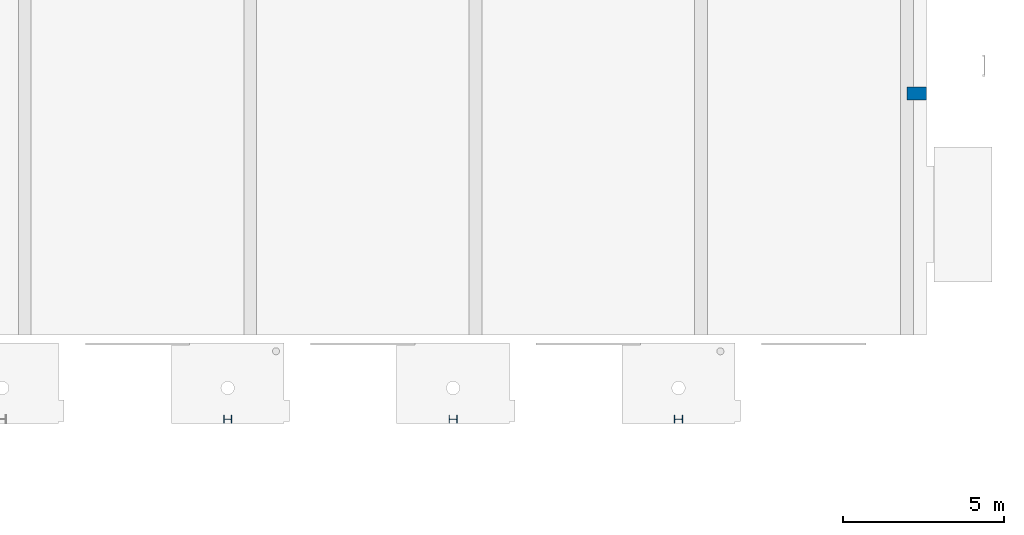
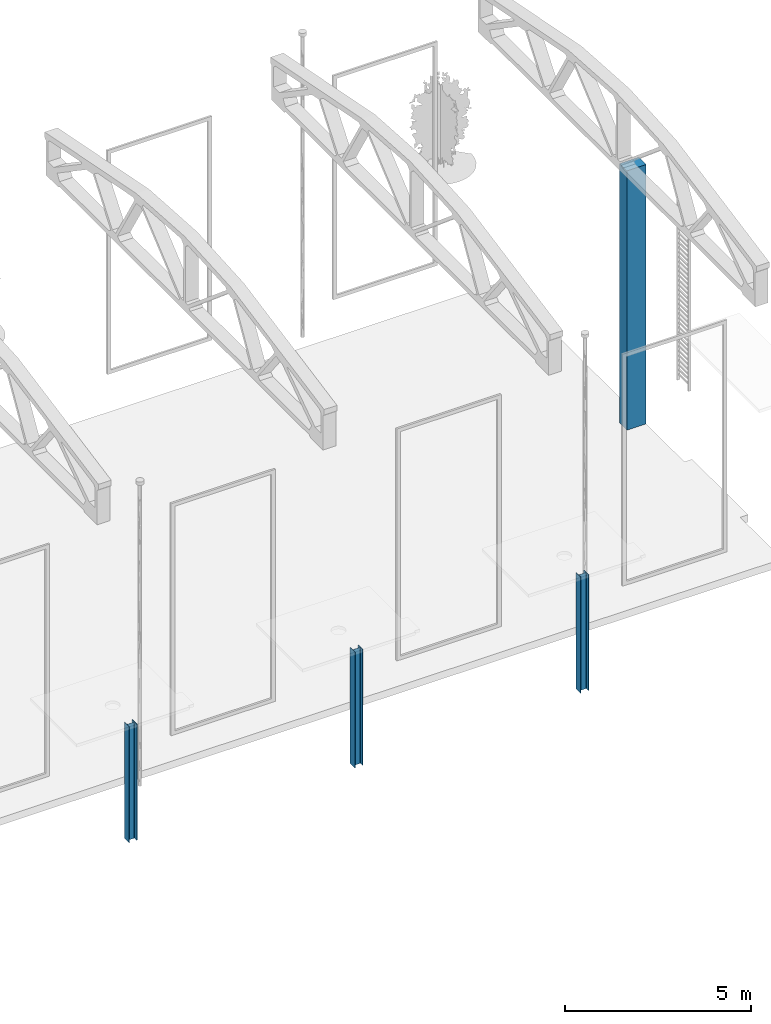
# One storey, part 2 of 14: 4 columns.
"""IFC2X3 building model written with IfcOpenShell, lengths in millimetres."""

import ifcopenshell
import ifcopenshell.guid

model = None  # the IFC model being written
_history = None  # IfcOwnerHistory: only IFC2X3 demands one
_inside = {}  # id of a spatial element -> (the spatial element, [elements in it])
_under = {}  # id of a project, library or spatial element -> (it, [spatial elements below it])
_declared = {}  # id of a project -> (the project, [libraries it declares])
_typed = {}  # id of a type object -> (the type object, [elements of that type])
_made_of = {}  # id of a material, layer set ... -> (it, [elements and type objects made of it])


def new_model(schema):
    """Start an empty IFC model of exactly this schema.

    Asked for "IFC4X3", IfcOpenShell would pick the latest addendum, in which some entities
    have other attributes; the version numbers below select the first issue.
    IFC2X3 requires an IfcOwnerHistory on every rooted entity: one is made here for all.
    """
    global model, _history
    if schema == "IFC4X3":
        model = ifcopenshell.file(schema_version=(4, 3, 0, 0))
    else:
        model = ifcopenshell.file(schema=schema)
    _inside.clear()
    _under.clear()
    _declared.clear()
    _typed.clear()
    _made_of.clear()
    _history = None
    if model.schema == "IFC2X3":
        org = make("IfcOrganization", Name="unknown")
        user = make(
            "IfcPersonAndOrganization",
            ThePerson=make("IfcPerson", FamilyName="unknown"),
            TheOrganization=org,
        )
        app = make(
            "IfcApplication",
            ApplicationDeveloper=org,
            Version="unknown",
            ApplicationFullName="unknown",
            ApplicationIdentifier="unknown",
        )
        _history = make(
            "IfcOwnerHistory",
            OwningUser=user,
            OwningApplication=app,
            ChangeAction="ADDED",
            CreationDate=0,
        )
    return model


def make(cls, **values):
    """One entity of the class cls with the attributes given. An attribute that is None is left unset."""
    return model.create_entity(
        cls, **{name: value for name, value in values.items() if value is not None}
    )


def entity(cls, *values):
    """Any entity or typed value of the class cls, its attributes in the order of the schema. None: left unset."""
    e = model.create_entity(cls)
    for i, value in enumerate(values):
        if value is not None:
            e[i] = value
    return e


def rooted(cls, **values):
    """An entity with a GlobalId (a new one), such as an element, a storey or a relation."""
    return make(cls, GlobalId=ifcopenshell.guid.new(), OwnerHistory=_history, **values)


def si_unit(unit_type, name, prefix=None):
    """IfcSIUnit, for example si_unit("LENGTHUNIT", "METRE", prefix="MILLI")."""
    return make("IfcSIUnit", UnitType=unit_type, Prefix=prefix, Name=name)


def converted_unit(unit_type, name, factor, base, dimensions=None, offset=None):
    """IfcConversionBasedUnit, such as the inch: factor (a typed value) times the base unit."""
    return make(
        "IfcConversionBasedUnit"
        if offset is None
        else "IfcConversionBasedUnitWithOffset",
        ConversionOffset=offset,
        Dimensions=None
        if dimensions is None
        else entity("IfcDimensionalExponents", *dimensions),
        UnitType=unit_type,
        Name=name,
        ConversionFactor=make(
            "IfcMeasureWithUnit", ValueComponent=factor, UnitComponent=base
        ),
    )


def derived_unit(unit_type, elements):
    """IfcDerivedUnit: a product of units, each with its exponent."""
    return make(
        "IfcDerivedUnit",
        Elements=[
            make("IfcDerivedUnitElement", Unit=unit, Exponent=power)
            for unit, power in elements
        ],
        UnitType=unit_type,
    )


def assignment(units):
    """IfcUnitAssignment: the units of a project."""
    return None if units is None else make("IfcUnitAssignment", Units=units)


def point(xyz):
    """IfcCartesianPoint."""
    return None if xyz is None else make("IfcCartesianPoint", Coordinates=xyz)


def direction(xyz):
    """IfcDirection."""
    return None if xyz is None else make("IfcDirection", DirectionRatios=xyz)


def frame(location, z_axis=None, x_axis=None):
    """IfcAxis2Placement3D, a coordinate frame: its origin and axes. An axis left out is left unset."""
    return make(
        "IfcAxis2Placement3D",
        Location=point(location),
        Axis=direction(z_axis),
        RefDirection=direction(x_axis),
    )


def frame_2d(location, x_axis=None):
    """IfcAxis2Placement2D, a coordinate frame in the plane: its origin and x axis."""
    return make(
        "IfcAxis2Placement2D", Location=point(location), RefDirection=direction(x_axis)
    )


def origin():
    """The frame at (0, 0, 0) with its axes left unset."""
    return frame((0.0, 0.0, 0.0))


def origin_2d_with_axis():
    """The frame at (0, 0) in the plane with the x axis (1, 0) written out."""
    return frame_2d((0.0, 0.0), x_axis=(1.0, 0.0))


def place(relative_to, where):
    """IfcLocalPlacement: puts the frame where relative to a parent placement (None: the world)."""
    return make(
        "IfcLocalPlacement", PlacementRelTo=relative_to, RelativePlacement=where
    )


def context(
    kind, dimensions, precision=None, world=None, true_north=None, identifier=None
):
    """IfcGeometricRepresentationContext, for example the 3D "Model" context."""
    return make(
        "IfcGeometricRepresentationContext",
        ContextIdentifier=identifier,
        ContextType=kind,
        CoordinateSpaceDimension=dimensions,
        Precision=precision,
        WorldCoordinateSystem=world,
        TrueNorth=true_north,
    )


def subcontext(parent, identifier, kind, view, scale=None):
    """IfcGeometricRepresentationSubContext, for example "Body" below "Model"."""
    return make(
        "IfcGeometricRepresentationSubContext",
        ContextIdentifier=identifier,
        ContextType=kind,
        ParentContext=parent,
        TargetScale=scale,
        TargetView=view,
    )


def project(units=None, contexts=None):
    """IfcProject with its units and contexts."""
    return rooted(
        "IfcProject",
        Name="project",
        RepresentationContexts=contexts,
        UnitsInContext=assignment(units),
    )


def spatial(cls, under=None, at=None, **own):
    """A site, building, storey or space (cls), placed at a placement, below another one or the project."""
    s = rooted(cls, ObjectPlacement=at, **own)
    if under is not None:
        _under.setdefault(under.id(), (under, []))[1].append(s)
    return s


def polyline(points):
    """IfcPolyline through the points."""
    return make("IfcPolyline", Points=[point(p) for p in points])


def circle_curve(where, radius):
    """IfcCircle in the frame where."""
    return make("IfcCircle", Position=where, Radius=radius)


def parameter(value):
    """IfcParameterValue: where a trimmed curve begins or ends, as a parameter of its basis curve."""
    return model.create_entity("IfcParameterValue", value)


def trimmed(basis, trim1, trim2, sense, master):
    """IfcTrimmedCurve: the piece of a basis curve between two trims."""
    return make(
        "IfcTrimmedCurve",
        BasisCurve=basis,
        Trim1=trim1,
        Trim2=trim2,
        SenseAgreement=sense,
        MasterRepresentation=master,
    )


def segment(curve, same_sense, transition):
    """IfcCompositeCurveSegment."""
    return make(
        "IfcCompositeCurveSegment",
        Transition=transition,
        SameSense=same_sense,
        ParentCurve=curve,
    )


def composite_curve(segments, self_intersect=None):
    """IfcCompositeCurve: segments joined end to end."""
    return make("IfcCompositeCurve", Segments=segments, SelfIntersect=self_intersect)


def profile(cls, at=None, kind="AREA", **sizes):
    """A parametric profile (cls). Its sizes go by their IFC names, for example OverallWidth=200.0."""
    return make(cls, ProfileType=kind, Position=at, **sizes)


def rectangle(**sizes):
    """IfcRectangleProfileDef."""
    return profile("IfcRectangleProfileDef", **sizes)


def outline(outer, holes=None, kind="AREA"):
    """IfcArbitraryClosedProfileDef: a profile drawn as a closed curve; with holes, ...WithVoids."""
    if holes is None:
        return make("IfcArbitraryClosedProfileDef", ProfileType=kind, OuterCurve=outer)
    return make(
        "IfcArbitraryProfileDefWithVoids",
        ProfileType=kind,
        OuterCurve=outer,
        InnerCurves=holes,
    )


def extrude(swept, where, along, depth):
    """IfcExtrudedAreaSolid: the profile swept, set in the frame where, extruded along a direction by depth."""
    return make(
        "IfcExtrudedAreaSolid",
        SweptArea=swept,
        Position=where,
        ExtrudedDirection=direction(along),
        Depth=depth,
    )


def shape(context_of_items, identifier, shape_type, items):
    """IfcShapeRepresentation: the items that make up one representation, for example the "Body"."""
    return make(
        "IfcShapeRepresentation",
        ContextOfItems=context_of_items,
        RepresentationIdentifier=identifier,
        RepresentationType=shape_type,
        Items=items,
    )


def source(mapping_origin, context_of_items, identifier, shape_type, items):
    """IfcRepresentationMap: a shape defined once, which mapped items show again and again."""
    return make(
        "IfcRepresentationMap",
        MappingOrigin=mapping_origin,
        MappedRepresentation=shape(context_of_items, identifier, shape_type, items),
    )


def transform(
    local_origin,
    x_axis=None,
    y_axis=None,
    z_axis=None,
    scale=None,
    scale2=None,
    scale3=None,
    uniform=True,
):
    """IfcCartesianTransformationOperator3D, or its non-uniform kind. x_axis, y_axis, z_axis: its Axis1, 2, 3."""
    if uniform:
        return make(
            "IfcCartesianTransformationOperator3D",
            Axis1=direction(x_axis),
            Axis2=direction(y_axis),
            LocalOrigin=point(local_origin),
            Scale=scale,
            Axis3=direction(z_axis),
        )
    return make(
        "IfcCartesianTransformationOperator3DnonUniform",
        Axis1=direction(x_axis),
        Axis2=direction(y_axis),
        LocalOrigin=point(local_origin),
        Scale=scale,
        Axis3=direction(z_axis),
        Scale2=scale2,
        Scale3=scale3,
    )


def mapped(mapping_source, mapping_target):
    """IfcMappedItem: shows the shape of a source again, moved by a transform."""
    return make(
        "IfcMappedItem", MappingSource=mapping_source, MappingTarget=mapping_target
    )


def material(Name=None, Category=None):
    """IfcMaterial."""
    return make("IfcMaterial", Name=Name, Category=Category)


def made_of(thing, what):
    """Note that an element or type object is made of a material, layer set ...; save() writes the relation."""
    if what is not None:
        _made_of.setdefault(what.id(), (what, []))[1].append(thing)
    return thing


def type_object(cls, material=None, **own):
    """A type object (cls), such as IfcWallType, which elements share."""
    return made_of(rooted(cls, **own), material)


def type_shapes(of_type, sources):
    """Give a type object the sources (RepresentationMaps) that its elements show as mapped items."""
    of_type.RepresentationMaps = sources


def element(
    cls,
    number,
    at=None,
    inside=None,
    cuts=None,
    type_object=None,
    material=None,
    context=None,
    identifier="Body",
    shape_type=None,
    held_by="IfcProductDefinitionShape",
    body=None,
    shapes=None,
    **own,
):
    """One element of the class cls, such as IfcWall. Its Tag is "e" and its number.

    at: its placement. inside: the storey or other place that contains it. cuts: it is an
    opening in that element (IfcRelVoidsElement). A single representation is given by context,
    identifier, shape_type and body (its items); several are given by shapes. held_by: the class
    of the entity that holds the representations. save() writes the other relations.
    """
    e = rooted(cls, Tag="e%d" % number, ObjectPlacement=at, **own)
    if body is not None:
        shapes = [shape(context, identifier, shape_type, body)]
    if shapes is not None:
        e.Representation = make(held_by, Representations=shapes)
    if inside is not None:
        _inside.setdefault(inside.id(), (inside, []))[1].append(e)
    if cuts is not None:
        rooted(
            "IfcRelVoidsElement", RelatingBuildingElement=cuts, RelatedOpeningElement=e
        )
    if type_object is not None:
        _typed.setdefault(type_object.id(), (type_object, []))[1].append(e)
    return made_of(e, material)


def aggregate(whole, parts):
    """IfcRelAggregates: a whole, such as a stair, and the parts it consists of."""
    return rooted("IfcRelAggregates", RelatingObject=whole, RelatedObjects=parts)


def save(model, path):
    """Write the relations noted so far, then the file.

    IfcRelAggregates (storeys below a building ...), IfcRelContainedInSpatialStructure (elements
    in a storey), IfcRelDefinesByType, IfcRelAssociatesMaterial and IfcRelDeclares: one each for
    every whole, place, type object, material and project.
    """
    for whole, parts in _under.values():
        aggregate(whole, parts)
    for where, things in _inside.values():
        rooted(
            "IfcRelContainedInSpatialStructure",
            RelatedElements=things,
            RelatingStructure=where,
        )
    for kind, things in _typed.values():
        rooted("IfcRelDefinesByType", RelatedObjects=things, RelatingType=kind)
    for what, things in _made_of.values():
        rooted("IfcRelAssociatesMaterial", RelatedObjects=things, RelatingMaterial=what)
    for by, libraries in _declared.values():
        rooted("IfcRelDeclares", RelatingContext=by, RelatedDefinitions=libraries)
    model.write(path)


model = new_model("IFC2X3")

# Units and contexts
model_context = context("Model", 3, precision=0.01, world=origin(), true_north=direction((6.12303176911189e-17, 1.0)))
body_context = subcontext(model_context, "Body", "Model", "MODEL_VIEW")
ifc_project = project(units=[si_unit("LENGTHUNIT", "METRE", prefix="MILLI"), si_unit("AREAUNIT", "SQUARE_METRE"), si_unit("VOLUMEUNIT", "CUBIC_METRE"), converted_unit("PLANEANGLEUNIT", "DEGREE", entity("IfcRatioMeasure", 0.0174532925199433), si_unit("PLANEANGLEUNIT", "RADIAN"), dimensions=[0, 0, 0, 0, 0, 0, 0]), si_unit("MASSUNIT", "GRAM", prefix="KILO"), derived_unit("MASSDENSITYUNIT", [(si_unit("MASSUNIT", "GRAM", prefix="KILO"), 1), (si_unit("LENGTHUNIT", "METRE"), -3)]), si_unit("TIMEUNIT", "SECOND"), si_unit("FREQUENCYUNIT", "HERTZ"), si_unit("THERMODYNAMICTEMPERATUREUNIT", "DEGREE_CELSIUS"), derived_unit("THERMALTRANSMITTANCEUNIT", [(si_unit("MASSUNIT", "GRAM", prefix="KILO"), 1), (si_unit("THERMODYNAMICTEMPERATUREUNIT", "KELVIN"), -1), (si_unit("TIMEUNIT", "SECOND"), -3)]), derived_unit("VOLUMETRICFLOWRATEUNIT", [(si_unit("LENGTHUNIT", "METRE"), 3), (si_unit("TIMEUNIT", "SECOND"), -1)]), si_unit("ELECTRICCURRENTUNIT", "AMPERE"), si_unit("ELECTRICVOLTAGEUNIT", "VOLT"), si_unit("POWERUNIT", "WATT"), si_unit("FORCEUNIT", "NEWTON", prefix="KILO"), si_unit("ILLUMINANCEUNIT", "LUX"), si_unit("LUMINOUSFLUXUNIT", "LUMEN"), si_unit("LUMINOUSINTENSITYUNIT", "CANDELA"), derived_unit("USERDEFINED", [(si_unit("MASSUNIT", "GRAM", prefix="KILO"), -1), (si_unit("LENGTHUNIT", "METRE"), -2), (si_unit("TIMEUNIT", "SECOND"), 3), (si_unit("LUMINOUSFLUXUNIT", "LUMEN"), 1)]), derived_unit("LINEARVELOCITYUNIT", [(si_unit("LENGTHUNIT", "METRE"), 1), (si_unit("TIMEUNIT", "SECOND"), -1)]), si_unit("PRESSUREUNIT", "PASCAL"), derived_unit("USERDEFINED", [(si_unit("LENGTHUNIT", "METRE"), -2), (si_unit("MASSUNIT", "GRAM", prefix="KILO"), 1), (si_unit("TIMEUNIT", "SECOND"), -2)])], contexts=[model_context])

# Site, building, storey
site_placement = place(None, origin())
site = spatial("IfcSite", under=ifc_project, at=site_placement, Name="表面", CompositionType="ELEMENT")
building_placement = place(site_placement, origin())
building = spatial("IfcBuilding", under=site, at=building_placement, CompositionType="ELEMENT")
storey_placement = place(building_placement, origin())
storey = spatial("IfcBuildingStorey", under=building, at=storey_placement, Name="±0.000", CompositionType="ELEMENT", Elevation=0.0)

# Columns
ifc_material_1 = material(Name="混凝土 - 结构柱涂黑")
column_type_1 = type_object("IfcColumnType", Name="400 x 600mm", PredefinedType="COLUMN", material=ifc_material_1)
shared_shape_1 = source(origin(), body_context, "Body", "SweptSolid", [
    extrude(rectangle(XDim=600.0, YDim=400.0, at=origin_2d_with_axis()), frame((0.0, 0.0, 0.0), z_axis=(0.0, 0.0, 1.0), x_axis=(0.0, -1.0, 0.0)), (0.0, 0.0, 1.0), 8500.0),
])
type_shapes(column_type_1, [shared_shape_1])
column_placement = place(storey_placement, frame((9671.20121859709, 8109.69740738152, 0.0), z_axis=(0.0, 0.0, 1.0), x_axis=(0.0, 1.0, 0.0)))
element("IfcColumn", 1, at=column_placement, inside=storey, type_object=column_type_1, material=ifc_material_1, Name="M_矩形-结构柱:400 x 600mm", ObjectType="400 x 600mm", context=body_context, shape_type="MappedRepresentation", body=[
    mapped(shared_shape_1, transform((0.0, 0.0, 0.0), scale=1.0)),
])
ifc_material_2 = material(Name="金属 - 钢 - 345 MPa")
column_type_2 = type_object("IfcColumnType", Name="W250X73", PredefinedType="COLUMN", material=ifc_material_2)
shared_shape_2 = source(origin(), body_context, "Body", "SweptSolid", [
    extrude(outline(composite_curve([segment(polyline([(112.3, -127.0), (126.5, -127.0)]), True, "CONTINUOUS"), segment(polyline([(126.5, -127.0), (126.5, 127.0)]), True, "CONTINUOUS"), segment(polyline([(126.5, 127.0), (112.3, 127.0)]), True, "CONTINUOUS"), segment(polyline([(112.3, 127.0), (112.3, 21.1)]), True, "CONTINUOUS"), segment(trimmed(circle_curve(frame_2d((95.4999999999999, 21.1000000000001), x_axis=(1.0, 0.0)), 16.8000000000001), [parameter(270.0)], [parameter(0.0)], True, "PARAMETER"), False, "CONTINUOUS"), segment(polyline([(95.5, 4.30000000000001), (-95.5, 4.30000000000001)]), True, "CONTINUOUS"), segment(trimmed(circle_curve(frame_2d((-95.5, 21.1), x_axis=(0.0, -1.0)), 16.8), [parameter(270.0)], [parameter(0.0)], True, "PARAMETER"), False, "CONTINUOUS"), segment(polyline([(-112.3, 21.1), (-112.3, 127.0)]), True, "CONTINUOUS"), segment(polyline([(-112.3, 127.0), (-126.5, 127.0)]), True, "CONTINUOUS"), segment(polyline([(-126.5, 127.0), (-126.5, -127.0)]), True, "CONTINUOUS"), segment(polyline([(-126.5, -127.0), (-112.3, -127.0)]), True, "CONTINUOUS"), segment(polyline([(-112.3, -127.0), (-112.3, -21.1)]), True, "CONTINUOUS"), segment(trimmed(circle_curve(frame_2d((-95.5, -21.1), x_axis=(-1.0, 0.0)), 16.8), [parameter(270.0)], [parameter(0.0)], True, "PARAMETER"), False, "CONTINUOUS"), segment(polyline([(-95.5, -4.3), (95.5, -4.3)]), True, "CONTINUOUS"), segment(trimmed(circle_curve(frame_2d((95.5, -21.1), x_axis=(0.0, 1.0)), 16.8), [parameter(270.0)], [parameter(0.0)], True, "PARAMETER"), False, "CONTINUOUS"), segment(polyline([(112.3, -21.1), (112.3, -127.0)]), True, "CONTINUOUS")], self_intersect=False)), frame((0.0, 0.0, 0.0), z_axis=(0.0, 0.0, 1.0), x_axis=(0.0, -1.0, 0.0)), (0.0, 0.0, 1.0), 3800.0),
])
type_shapes(column_type_2, [shared_shape_2])
for number, where, z_axis, x_axis in (
    (2, (-11728.7987814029, -2003.09994881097, 0.0), (0.0, 0.0, 1.0), (0.0, 1.0, 0.0)),
    (3, (-4728.79878140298, -2003.09994881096, 0.0), (0.0, 0.0, 1.0), (0.0, 1.0, 0.0)),
    (4, (2271.20121859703, -2003.09994881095, 0.0), (0.0, 0.0, 1.0), (0.0, 1.0, 0.0)),
):
    element("IfcColumn", number, at=place(storey_placement, frame(where, z_axis=z_axis, x_axis=x_axis)), inside=storey, type_object=column_type_2, material=ifc_material_2, Name="W-宽翼缘-柱:W250X73", ObjectType="W250X73", context=body_context, shape_type="MappedRepresentation", body=[
        mapped(shared_shape_2, transform((0.0, 0.0, 0.0), scale=1.0)),
    ])

save(model, "model.ifc")
